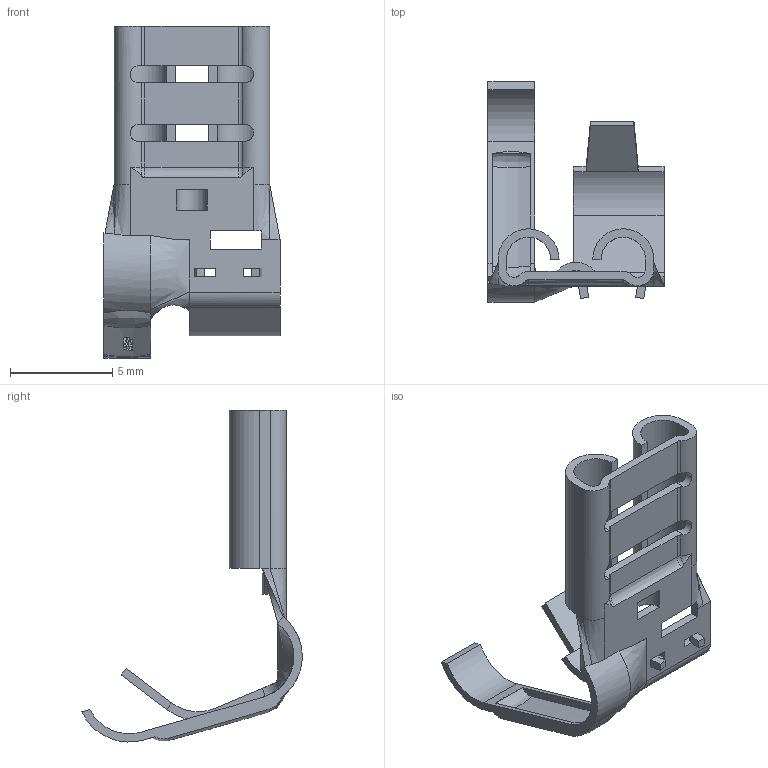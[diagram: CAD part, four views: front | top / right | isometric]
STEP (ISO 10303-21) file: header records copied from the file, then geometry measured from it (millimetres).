
FILE_DESCRIPTION((''),'2;1');
FILE_NAME('C-0042404-01-3-UNCRIMPED','2007-09-03T',('workeradm'),('Tyco Electronics Corporation'),'PRO/ENGINEER BY PARAMETRIC TECHNOLOGY CORPORATION, 2005450','PRO/ENGINEER BY PARAMETRIC TECHNOLOGY CORPORATION, 2005450','');
FILE_SCHEMA(('CONFIG_CONTROL_DESIGN', 'GEOMETRIC_VALIDATION_PROPERTIES_MIM'));
Length unit declared in the file: millimetre
Products named in the file (1): C-0042404-01-3-UNCRIMPED
Bounding box: 8.62 x 10.79 x 16.25 mm (x, y, z)
Volume: 92.2 mm3; surface area: 541.2 mm2
Topology: 1 solids, 2 shells, 176 faces, 493 edges, 317 vertices
Faces by surface type: plane 92, cylinder 52, bspline 24, torus 6, extrusion 2
Entity records: 6662 total; most frequent: CARTESIAN_POINT 2087, ORIENTED_EDGE 982, DIRECTION 847, EDGE_CURVE 493, VERTEX_POINT 317, VECTOR 291, LINE 289, AXIS2_PLACEMENT_3D 278
